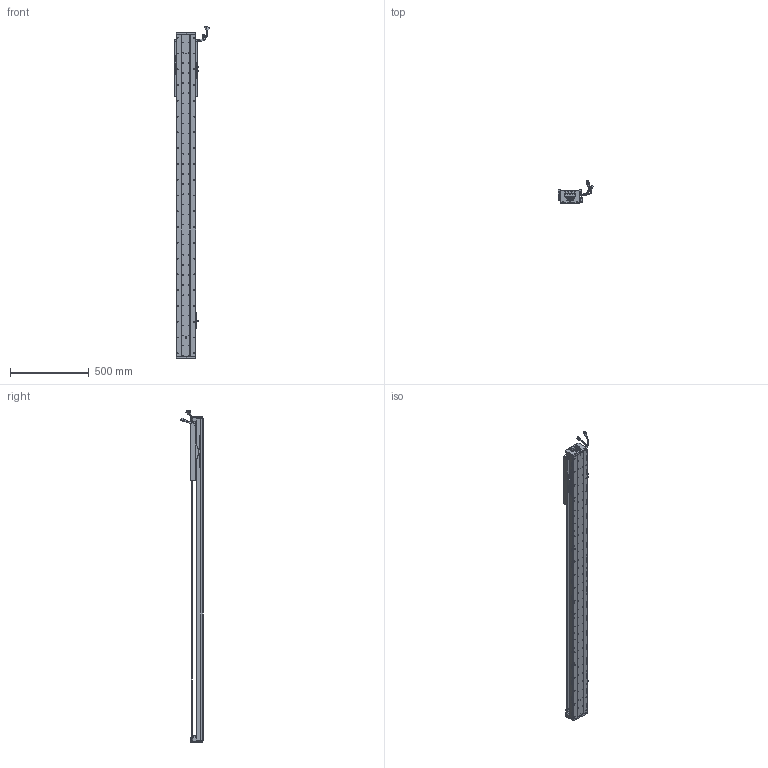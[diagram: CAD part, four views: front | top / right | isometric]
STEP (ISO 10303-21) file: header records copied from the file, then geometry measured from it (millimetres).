
FILE_DESCRIPTION (( 'STEP AP203' ), '1' );
FILE_NAME ('Z5-RY120D-1-L500-B-K.SLDASM_1600.step', '2021-05-17T06:23:27', ( '盈信电脑' ), ( '东莞市道滘镇水果街19号' ), 'SwSTEP 2.0', 'SolidWorks 2016', '' );
FILE_SCHEMA (( 'CONFIG_CONTROL_DESIGN' ));
Length unit declared in the file: millimetre
Products named in the file (37): LABEL; SEAL; Z-120詩湍傷裔啣; SCREW-M1.6-3; HARNESS-Part-1; Z5-RY120D-1-L500-B-K.SLDASM_1600; HARNESS-Part-2; LABEL-Part-1; SCALE-Part-2; Z-RY120D詩湍奻揤裔; HOLDER0; 672嫖萇羲壽假蚾釱; PSLH080_PSLF2; HARNESS; 140蚥薯蝶輸; Z5-RY120-500-倰第菁釱_1600; SCREW-M1.7-1; SCALE; 榋妏寠巭燃_暯_M2_2; COVER; 覜茼ん672; RY100FB-遵嫖萇覜茼え; SCREW-M1.6; PBU_SHEET; 120-Z-臏賑輸盄裔(21遴); Z5-RY120-L500詩湍100mm遵_1600; SEAL-Part-1; SCREW-M1.7; SCREW-M1.6-1; 080黍杅芛假蚾釱21遴; 140雄赽晤鎢ん堤盄; SCREW-M1.6-2; COVER-Part-1; Z5-RY120铝滑块（21款）; SCALE-Part-1; SHIELDPLATE; Z-RY120D詩湍狟揤裔
Assembly tree (43 placements, depth 4):
  Z5-RY120D-1-L500-B-K.SLDASM_1600
    Z5-RY120-500-倰第菁釱_1600
    覜茼ん672  x3
    672嫖萇羲壽假蚾釱  x2
    Z5-RY120铝滑块（21款）
    PSLH080_PSLF2
      SCALE
        SCALE-Part-1
        SCALE-Part-2
      HARNESS
        HARNESS-Part-1
        HARNESS-Part-2
      LABEL
        LABEL-Part-1
      COVER
        COVER-Part-1
      SEAL
        SEAL-Part-1
      榋妏寠巭燃_暯_M2_2
      SHIELDPLATE
      SCREW-M1.7
      SCREW-M1.7-1
      PBU_SHEET
      SCREW-M1.6
      SCREW-M1.6-1
      SCREW-M1.6-2
      SCREW-M1.6-3
      HOLDER0
    080黍杅芛假蚾釱21遴
    120-Z-臏賑輸盄裔(21遴)
    140雄赽晤鎢ん堤盄
    140蚥薯蝶輸  x2
    RY100FB-遵嫖萇覜茼え
    Z-120詩湍傷裔啣  x2
    Z-RY120D詩湍奻揤裔  x2
    Z-RY120D詩湍狟揤裔  x2
    Z5-RY120-L500詩湍100mm遵_1600
Bounding box: 222.88 x 140.94 x 2103.99 mm (x, y, z)
Volume: 5470001.7 mm3; surface area: 1831624.5 mm2
Topology: 38 solids, 38 shells, 3457 faces, 9687 edges, 6120 vertices
Faces by surface type: cylinder 1771, plane 1218, cone 346, torus 69, bspline 53
Entity records: 112660 total; most frequent: CARTESIAN_POINT 33165, ORIENTED_EDGE 16206, DIRECTION 15201, EDGE_CURVE 8103, AXIS2_PLACEMENT_3D 5626, VERTEX_POINT 5240, VECTOR 3949, LINE 3949
